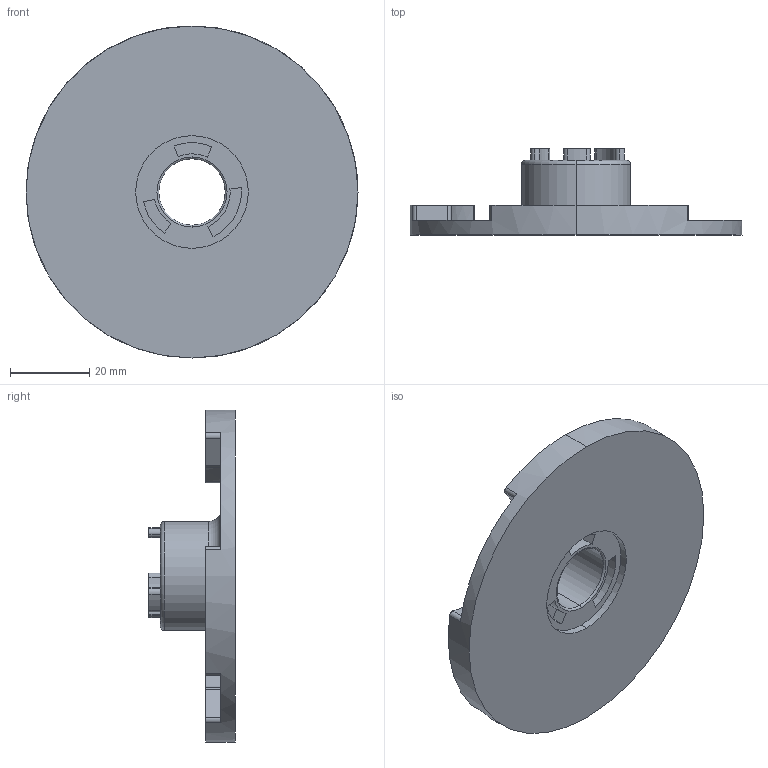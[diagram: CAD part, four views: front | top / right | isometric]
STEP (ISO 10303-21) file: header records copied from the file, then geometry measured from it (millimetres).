
FILE_DESCRIPTION (( 'STEP AP214' ), '1' );
FILE_NAME ('BOWFLEX PART 3.STEP', '2020-04-29T04:56:39', ( '' ), ( '' ), 'SwSTEP 2.0', 'SolidWorks 2019', '' );
FILE_SCHEMA (( 'AUTOMOTIVE_DESIGN' ));
Length unit declared in the file: millimetre
Products named in the file (1): BOWFLEX PART 3
Bounding box: 84 x 21.85 x 84 mm (x, y, z)
Volume: 29263.4 mm3; surface area: 15449.9 mm2
Topology: 1 solids, 1 shells, 108 faces, 283 edges, 186 vertices
Faces by surface type: cylinder 53, plane 41, torus 8, bspline 6
Entity records: 3779 total; most frequent: CARTESIAN_POINT 984, DIRECTION 611, ORIENTED_EDGE 566, EDGE_CURVE 283, AXIS2_PLACEMENT_3D 237, VERTEX_POINT 186, VECTOR 137, LINE 137
